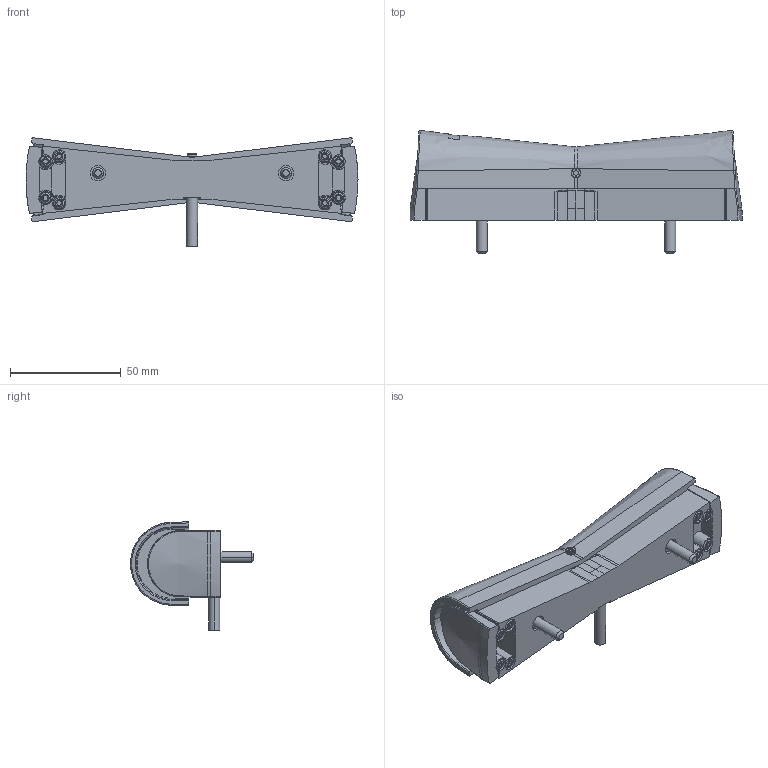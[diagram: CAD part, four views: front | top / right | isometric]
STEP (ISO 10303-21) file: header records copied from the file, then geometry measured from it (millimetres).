
FILE_DESCRIPTION((''),'2;1');
FILE_NAME('0580182','2016-09-15T',('TI'),(''),'CREO PARAMETRIC BY PTC INC, 2016050','CREO PARAMETRIC BY PTC INC, 2016050','');
FILE_SCHEMA(('CONFIG_CONTROL_DESIGN'));
Length unit declared in the file: millimetre
Products named in the file (1): 0580182
Bounding box: 149.99 x 55.55 x 48.93 mm (x, y, z)
Volume: 127516.5 mm3; surface area: 24947.8 mm2
Topology: 1 solids, 1 shells, 635 faces, 1899 edges, 1292 vertices
Faces by surface type: cylinder 330, plane 119, bspline 66, torus 56, cone 48, extrusion 16
Entity records: 28704 total; most frequent: CARTESIAN_POINT 11584, ORIENTED_EDGE 3798, DIRECTION 3100, EDGE_CURVE 1899, VERTEX_POINT 1292, AXIS2_PLACEMENT_3D 1257, CIRCLE 704, EDGE_LOOP 661
